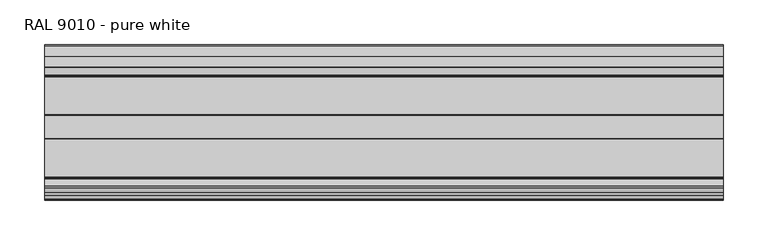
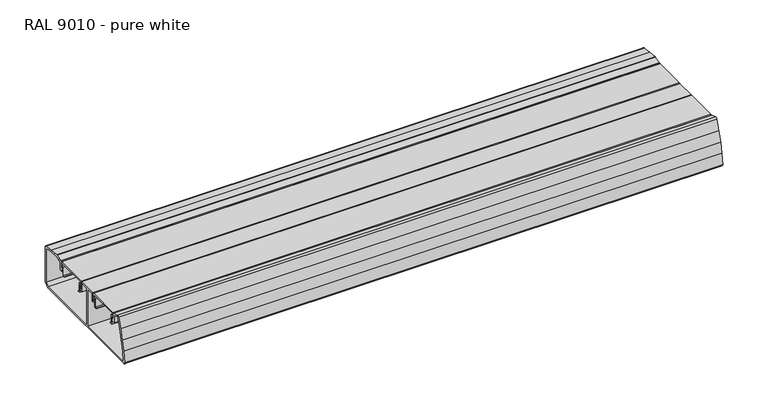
"""IFC4 building model written with IfcOpenShell, lengths in millimetres: proxy geometry, Electrical_Installations_Hager_GBD-Curved-Lid-End-Cap : RAL 9010 - pure white."""

from ifc_helpers import new_model, si_unit, point, frame, frame_2d, origin, place, context, project, spatial, polyline, circle_curve, trimmed, segment, composite_curve, outline, extrude, source, transform, mapped, element, save


def ral_9010_pure_white_d393c310(model_context):
    return source(origin(), model_context, "Body", "SweptSolid", [
        extrude(outline(composite_curve([segment(polyline([(-85.2368553, -25.0), (-6.25, -25.0), (-6.25, 25.0), (-15.95, 25.0), (-15.95, 14.96875), (-20.25, 14.96875), (-20.25, 18.7637258), (-19.25, 18.7637258), (-19.25, 16.3), (-17.75, 16.3), (-17.75, 27.0), (7.25, 27.0), (7.25, 16.3), (8.75, 16.3), (8.75, 18.7441115), (9.75, 18.7441115), (9.75, 14.5), (5.45, 14.5), (5.45, 25.0), (-4.25, 25.0), (-4.25, -25.0), (81.2473088, -25.0), (85.2, -21.0473088), (85.2, 25.0790901), (73.4084992, 26.7822965), (61.8792753, 27.7103781), (54.05, 25.1664923), (54.05, 14.5), (49.75, 14.5), (49.75, 18.7391101), (50.75, 18.7391101), (50.75, 16.3), (52.25, 16.3), (52.25, 26.2703589)]), True, "CONTINUOUS"), segment(trimmed(circle_curve(frame_2d((53.2542649, 26.2703589)), 1.0042649), [point((52.25, 26.2703589))], [point((52.94393, 27.2254715))], False, "CARTESIAN"), True, "CONTINUOUS"), segment(polyline([(52.94393, 27.2254715), (61.1647105, 29.896565)]), True, "CONTINUOUS"), segment(trimmed(circle_curve(frame_2d((61.8535718, 27.776468)), 2.229202), [point((61.1647105, 29.896565))], [point((62.0324399, 29.9984823))], False, "CARTESIAN"), True, "CONTINUOUS"), segment(polyline([(62.0324399, 29.9984823), (73.960524, 29.0382932), (85.7542621, 27.3347636)]), True, "CONTINUOUS"), segment(trimmed(circle_curve(frame_2d((85.4630616, 25.3187476)), 2.0369384), [point((85.7542621, 27.3347636))], [point((87.5, 25.3187476))], False, "CARTESIAN"), True, "CONTINUOUS"), segment(polyline([(87.5, 25.3187476), (87.5, -22.0), (82.5, -27.0), (-85.4371356, -27.0)]), True, "CONTINUOUS"), segment(trimmed(circle_curve(frame_2d((-85.4371356, -24.9109785)), 2.0890215), [point((-85.4371356, -27.0))], [point((-87.5045544, -24.6113283))], False, "CARTESIAN"), True, "CONTINUOUS"), segment(polyline([(-87.5045544, -24.6113283), (-85.4928777, -10.7318848), (-82.665273, 2.5001298), (-78.9366987, 15.5032139), (-74.2325269, 28.6175358)]), True, "CONTINUOUS"), segment(trimmed(circle_curve(frame_2d((-72.2816269, 27.9177383)), 2.0726137), [point((-74.2325269, 28.6175358))], [point((-71.641154, 29.8889111))], False, "CARTESIAN"), True, "CONTINUOUS"), segment(polyline([(-71.641154, 29.8889111), (-63.6327057, 27.2868085)]), True, "CONTINUOUS"), segment(trimmed(circle_curve(frame_2d((-63.9575866, 26.286928)), 1.0513366), [point((-63.6327057, 27.2868085))], [point((-62.90625, 26.286928))], False, "CARTESIAN"), True, "CONTINUOUS"), segment(polyline([(-62.90625, 26.286928), (-62.90625, 16.3), (-61.25, 16.3), (-61.25, 18.7177382), (-60.25, 18.7177382), (-60.25, 14.96875), (-64.55, 14.96875), (-64.55, 25.1664923), (-72.1420805, 27.6333088), (-76.7464574, 14.7971958), (-80.4325779, 1.9421659), (-83.2276507, -11.1376133), (-85.2368553, -25.0)]), True, "CONTINUOUS")], self_intersect=False)), frame((0.0, 0.0, 0.0), z_axis=(1.0, 0.0, 0.0), x_axis=(0.0, 1.0, 0.0)), (0.0, 0.0, 1.0), 762.7362609),
        extrude(outline(composite_curve([segment(polyline([(-19.317297, 25.7013932), (-61.217297, 25.7013932), (-61.217297, 22.4013932), (-57.767297, 22.4013932), (-57.767297, 10.8013932), (-55.867297, 10.8013932), (-55.867297, 10.0013932), (-58.767297, 10.0013932), (-58.767297, 21.4013932), (-61.5204385, 21.4013932), (-61.5204385, 17.0930522), (-62.5219845, 17.0930522), (-62.5219845, 26.2097868)]), True, "CONTINUOUS"), segment(trimmed(circle_curve(frame_2d((-61.6120226, 26.2097868)), 0.9099619), [point((-62.5219845, 26.2097868))], [point((-61.6120226, 27.1197487))], False, "CARTESIAN"), True, "CONTINUOUS"), segment(polyline([(-61.6120226, 27.1197487), (-19.1379774, 27.1197487)]), True, "CONTINUOUS"), segment(trimmed(circle_curve(frame_2d((-19.1379774, 26.1115683)), 1.0081804), [point((-19.1379774, 27.1197487))], [point((-18.129797, 26.1115683))], False, "CARTESIAN"), True, "CONTINUOUS"), segment(polyline([(-18.129797, 26.1115683), (-18.129797, 17.0930522), (-19.0141556, 17.0930522), (-19.0141556, 21.4013932), (-21.767297, 21.4013932), (-21.767297, 10.0013932), (-24.667297, 10.0013932), (-24.667297, 10.8013932), (-22.767297, 10.8013932), (-22.767297, 22.4013932), (-19.317297, 22.4013932), (-19.317297, 25.7013932)]), True, "CONTINUOUS")], self_intersect=False)), frame((0.0, 0.0, 0.0), z_axis=(1.0, 0.0, 0.0), x_axis=(0.0, 1.0, 0.0)), (0.0, 0.0, 1.0), 762.7362609),
        extrude(outline(composite_curve([segment(polyline([(50.7405963, 25.7013932), (8.8405963, 25.7013932), (8.8405963, 22.4013932), (12.2905963, 22.4013932), (12.2905963, 10.8013932), (14.1905963, 10.8013932), (14.1905963, 10.0013932), (11.2905963, 10.0013932), (11.2905963, 21.4013932), (8.5374548, 21.4013932), (8.5374548, 17.0930522), (7.5359088, 17.0930522), (7.5359088, 26.2097868)]), True, "CONTINUOUS"), segment(trimmed(circle_curve(frame_2d((8.4458707, 26.2097868)), 0.9099619), [point((7.5359088, 26.2097868))], [point((8.4458707, 27.1197487))], False, "CARTESIAN"), True, "CONTINUOUS"), segment(polyline([(8.4458707, 27.1197487), (50.9199159, 27.1197487)]), True, "CONTINUOUS"), segment(trimmed(circle_curve(frame_2d((50.9199159, 26.1115683)), 1.0081804), [point((50.9199159, 27.1197487))], [point((51.9280963, 26.1115683))], False, "CARTESIAN"), True, "CONTINUOUS"), segment(polyline([(51.9280963, 26.1115683), (51.9280963, 17.0930522), (51.0437378, 17.0930522), (51.0437378, 21.4013932), (48.2905963, 21.4013932), (48.2905963, 10.0013932), (45.3905963, 10.0013932), (45.3905963, 10.8013932), (47.2905963, 10.8013932), (47.2905963, 22.4013932), (50.7405963, 22.4013932), (50.7405963, 25.7013932)]), True, "CONTINUOUS")], self_intersect=False)), frame((0.0, 0.0, 0.0), z_axis=(1.0, 0.0, 0.0), x_axis=(0.0, 1.0, 0.0)), (0.0, 0.0, 1.0), 762.7362609),
    ])


if __name__ == "__main__":
    model = new_model("IFC4")
    model_context = context("Model", 3, world=origin())
    ifc_project = project(units=[si_unit("LENGTHUNIT", "METRE", prefix="MILLI")], contexts=[model_context])
    site = spatial("IfcSite", under=ifc_project)
    building = spatial("IfcBuilding", under=site)
    placement = place(None, origin())
    ral_9010_pure_white_shape = ral_9010_pure_white_d393c310(model_context)
    element("IfcBuildingElementProxy", 1, Name="Electrical_Installations_Hager_GBD-Curved-Lid-End-Cap : RAL 9010 - pure white", ObjectType="Electrical_Installations_Hager_GBD-Curved-Lid-End-Cap : RAL 9010 - pure white", at=placement, inside=building, context=model_context, shape_type="MappedRepresentation", body=[
        mapped(ral_9010_pure_white_shape, transform((0.0, 0.0, 0.0), x_axis=(1.0, 0.0, 0.0), y_axis=(0.0, 1.0, 0.0), z_axis=(0.0, 0.0, 1.0))),
    ])
    save(model, "model.ifc")
